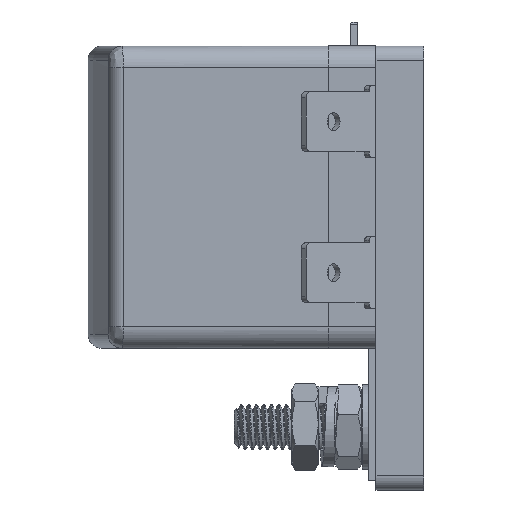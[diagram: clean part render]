
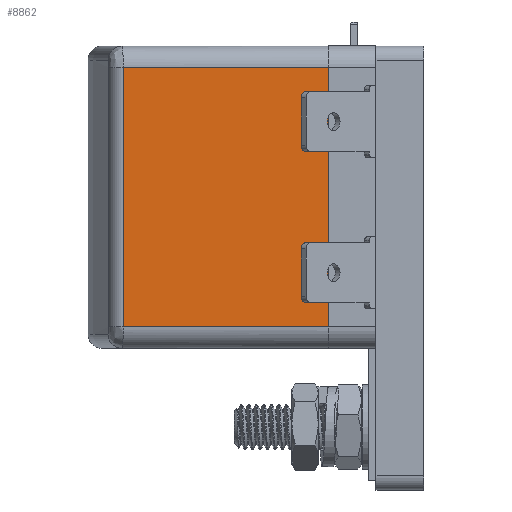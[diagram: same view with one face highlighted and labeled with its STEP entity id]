
A CAD part, left-side view. The second image highlights one B-rep face of the part: STEP entity #8862.
In plain terms, the highlighted planar face has unit normal (-1, 0, 0) as drawn and (1, 0, 0) by its records, which use the part's own axes.
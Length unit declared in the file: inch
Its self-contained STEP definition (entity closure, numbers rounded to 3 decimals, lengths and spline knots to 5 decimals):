
#703=PLANE('',#9820);
#1197=FACE_OUTER_BOUND('',#1732,.T.);
#1732=EDGE_LOOP('',(#8241,#8242,#8243,#8244));
#2553=LINE('',#19361,#3386);
#2566=LINE('',#19473,#3399);
#2567=LINE('',#19477,#3400);
#2568=LINE('',#19478,#3401);
#3386=VECTOR('',#12157,0.3937);
#3399=VECTOR('',#12202,0.3937);
#3400=VECTOR('',#12207,0.3937);
#3401=VECTOR('',#12208,0.3937);
#4468=VERTEX_POINT('',#19345);
#4470=VERTEX_POINT('',#19359);
#4483=VERTEX_POINT('',#19472);
#4484=VERTEX_POINT('',#19476);
#5716=EDGE_CURVE('',#4470,#4468,#2553,.T.);
#5740=EDGE_CURVE('',#4483,#4468,#2566,.T.);
#5742=EDGE_CURVE('',#4484,#4470,#2567,.T.);
#5743=EDGE_CURVE('',#4483,#4484,#2568,.T.);
#8241=ORIENTED_EDGE('',*,*,#5716,.F.);
#8242=ORIENTED_EDGE('',*,*,#5742,.F.);
#8243=ORIENTED_EDGE('',*,*,#5743,.F.);
#8244=ORIENTED_EDGE('',*,*,#5740,.T.);
#8862=ADVANCED_FACE('',(#1197),#703,.T.);
#9820=AXIS2_PLACEMENT_3D('',#19475,#12205,#12206);
#12157=DIRECTION('',(0.,1.,0.));
#12202=DIRECTION('',(0.,0.,1.));
#12205=DIRECTION('center_axis',(1.,0.,0.));
#12206=DIRECTION('ref_axis',(0.,1.,0.));
#12207=DIRECTION('',(0.,0.,1.));
#12208=DIRECTION('',(0.,-1.,0.));
#19345=CARTESIAN_POINT('',(1.25,0.54,0.85631));
#19359=CARTESIAN_POINT('',(1.25,-0.54,0.85631));
#19361=CARTESIAN_POINT('',(1.25,-0.63,0.85631));
#19472=CARTESIAN_POINT('',(1.25,0.54,0.));
#19473=CARTESIAN_POINT('',(1.25,0.54,0.));
#19475=CARTESIAN_POINT('Origin',(1.25,-0.54,0.));
#19476=CARTESIAN_POINT('',(1.25,-0.54,0.));
#19477=CARTESIAN_POINT('',(1.25,-0.54,0.));
#19478=CARTESIAN_POINT('',(1.25,0.54,0.));
